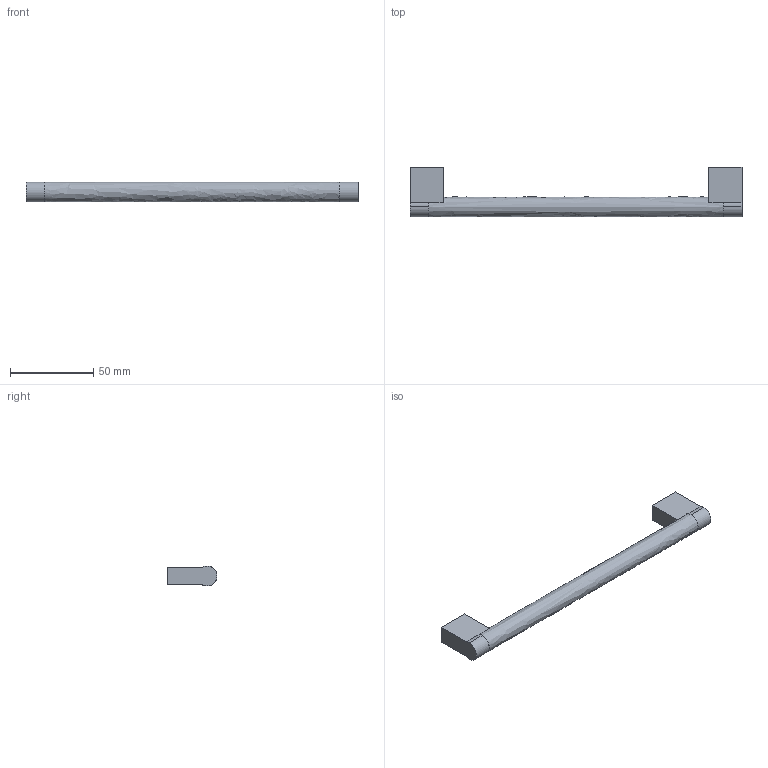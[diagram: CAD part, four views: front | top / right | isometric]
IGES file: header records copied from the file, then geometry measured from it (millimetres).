
Start section: Data from Parasolid IGES Translator 15.0.47, Copyright(c) 2006 Siemens P LM Software. All Rights Reserved.
Global section: file name:  9069953.igs; native system:  By UGS Corp.; preprocessor: XPlus GENERIC/IGES 3.0; author: Noname; organization: Noname; date: 20140122.153807; units: millimetre
Bounding box: 200 x 30 x 12 mm (x, y, z)
Surface area: 10893.6 mm2 (no closed solid volume)
Topology: 0 solids, 0 shells, 25 faces, 110 edges, 108 vertices
Faces by surface type: extrusion 16, revolution 9
